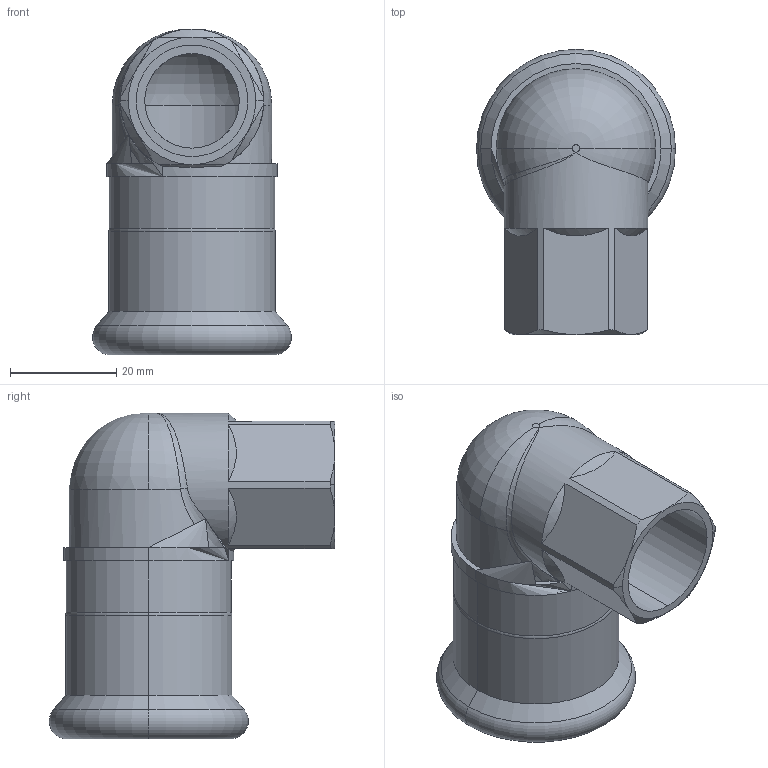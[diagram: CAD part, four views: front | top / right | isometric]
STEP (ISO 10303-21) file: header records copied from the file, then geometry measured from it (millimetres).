
FILE_DESCRIPTION(('Creo Elements/Direct Modeling STEP Export'),'2;1');
FILE_NAME('R2709 28xRp1-2.stp','2019-09-25T 8:24:53',(''),(''),'PTC Creo Elements/Direct Modeling STEP processor for AP214 (Solid Model)','PTC Creo Elements/Direct Modeling 19.0C 15-Aug-2015 (C) Parametric Technology GmbH','');
FILE_SCHEMA(('AUTOMOTIVE_DESIGN { 1 0 10303 214 1 1 1 1 }'));
Length unit declared in the file: millimetre
Products named in the file (1): R2709_28xRp1-2
Bounding box: 37.45 x 53.73 x 61.3 mm (x, y, z)
Volume: 18200.7 mm3; surface area: 15534.4 mm2
Topology: 1 solids, 1 shells, 102 faces, 255 edges, 163 vertices
Faces by surface type: plane 44, cylinder 31, cone 16, torus 9, bspline 2
Entity records: 6943 total; most frequent: CARTESIAN_POINT 4683, ORIENTED_EDGE 508, DIRECTION 398, EDGE_CURVE 254, VERTEX_POINT 163, AXIS2_PLACEMENT_3D 143, EDGE_LOOP 119, VECTOR 112
